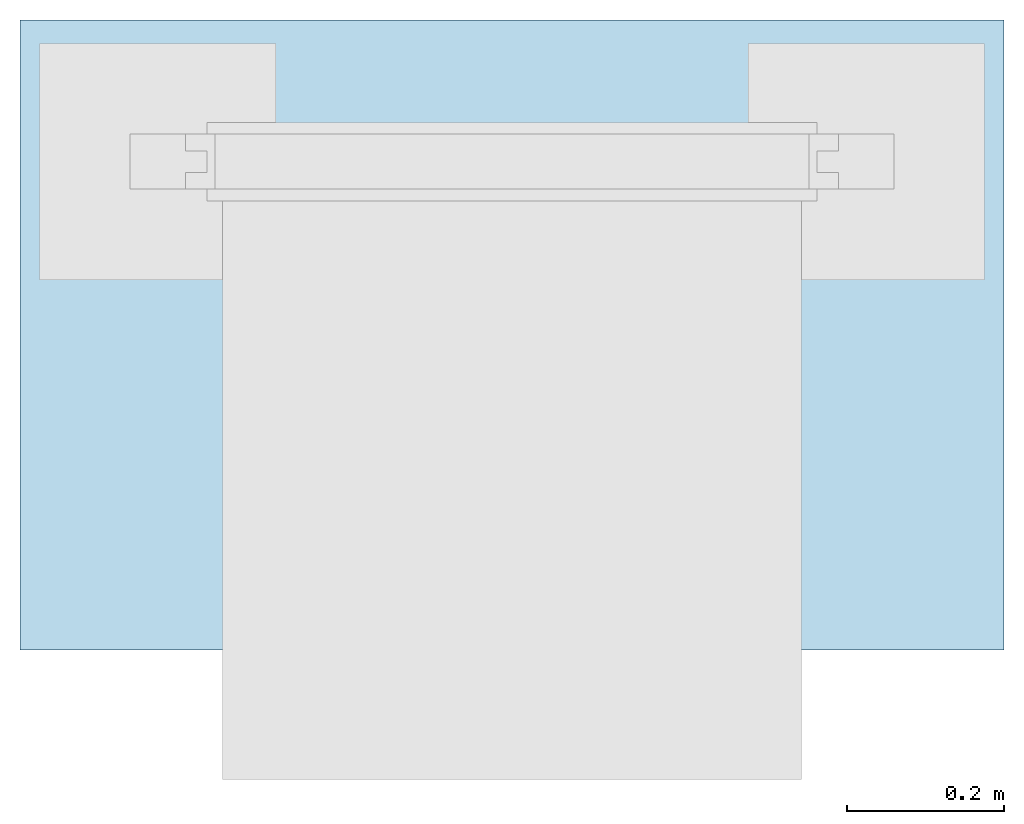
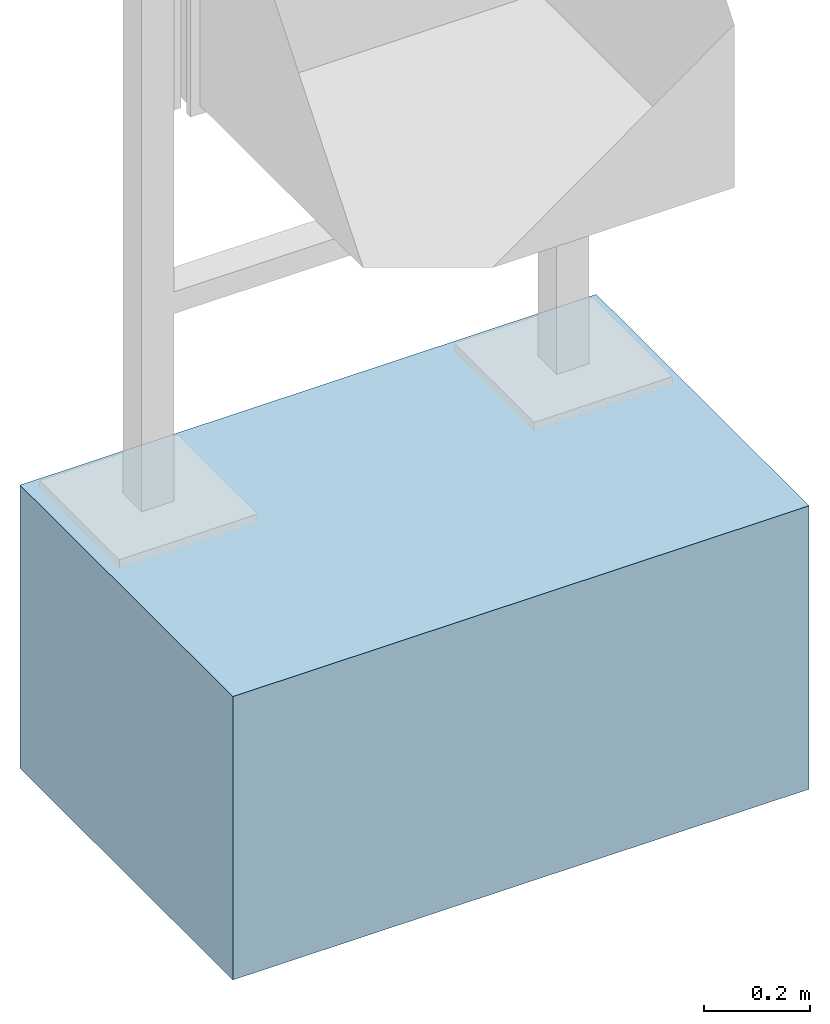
# One storey, incomplete: 1 slab.
"""IFC4 building model written with IfcOpenShell, lengths in metres."""

from ifc_helpers import new_model, entity, si_unit, converted_unit, direction, frame, frame_2d, origin, origin_2d_with_axis, place, context, subcontext, project, spatial, rectangle, extrude, material, type_object, element, save


model = new_model("IFC4")

# Units and contexts
model_context = context("Model", 3, precision=1e-05, world=origin(), true_north=direction((6.123031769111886e-17, 1.0)))
body_context = subcontext(model_context, "Body", "Model", "MODEL_VIEW")
ifc_project = project(units=[si_unit("LENGTHUNIT", "METRE"), converted_unit("PLANEANGLEUNIT", "DEGREE", entity("IfcPlaneAngleMeasure", 0.017453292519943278), si_unit("PLANEANGLEUNIT", "RADIAN"), dimensions=[0, 0, 0, 0, 0, 0, 0]), si_unit("AREAUNIT", "SQUARE_METRE")], contexts=[model_context])

# Site, building, storey
site_placement = place(None, origin())
site = spatial("IfcSite", under=ifc_project, at=site_placement, Name="Default", CompositionType="ELEMENT")
building_placement = place(site_placement, origin())
building = spatial("IfcBuilding", under=site, at=building_placement, CompositionType="ELEMENT")
storey_placement = place(building_placement, origin())
storey = spatial("IfcBuildingStorey", under=building, at=storey_placement, Name="Ebene 0", CompositionType="ELEMENT", Elevation=0.0)

# Slab
ifc_material = material(Name="DB_Magerbeton", Category="DB_Beton")
slab_type = type_object("IfcSlabType", Name="DB_Vitrine_Vanda_Fundament_einfeldrig_Windlastzone_1_2:DB_Vitrine_Vanda_Fundament_einfeldrig_Windlastzone_1_2", PredefinedType="BASESLAB", material=ifc_material)
slab_placement = place(storey_placement, origin())
element("IfcSlab", 1, at=slab_placement, inside=storey, type_object=slab_type, Name="DB_Vitrine_Vanda_Fundament_einfeldrig_Windlastzone_1_2:DB_Vitrine_Vanda_Fundament_einfeldrig_Windlastzone_1_2", ObjectType="DB_Vitrine_Vanda_Fundament_einfeldrig_Windlastzone_1_2:DB_Vitrine_Vanda_Fundament_einfeldrig_Windlastzone_1_2", PredefinedType="BASESLAB", context=body_context, shape_type="SweptSolid", body=[
    extrude(rectangle(XDim=0.8, YDim=1.2499999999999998, at=origin_2d_with_axis()), frame((0.45000000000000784, -0.2200000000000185, 0.0), z_axis=(0.0, 0.0, 1.0), x_axis=(0.0, -1.0, 0.0)), (0.0, 0.0, 1.0), 0.04999999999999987),
    extrude(rectangle(XDim=1.2499999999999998, YDim=0.8, at=frame_2d((0.0, -2.7755575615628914e-17), x_axis=(1.0, 0.0))), frame((0.4500000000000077, -0.22000000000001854, 0.04999999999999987), z_axis=(0.0, 0.0, 1.0), x_axis=(-1.0, 0.0, 0.0)), (0.0, 0.0, 1.0), 0.5999999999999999),
])

save(model, "model.ifc")
